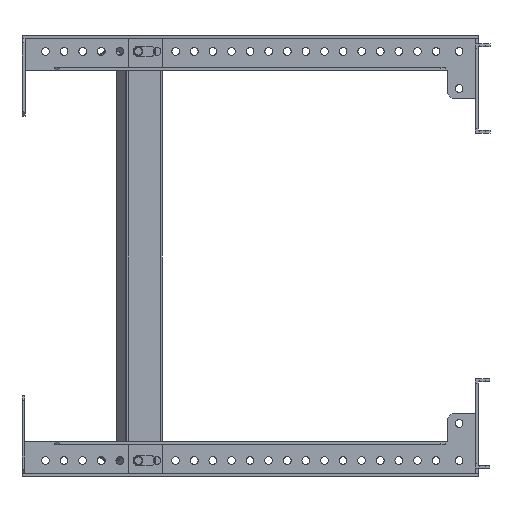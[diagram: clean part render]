
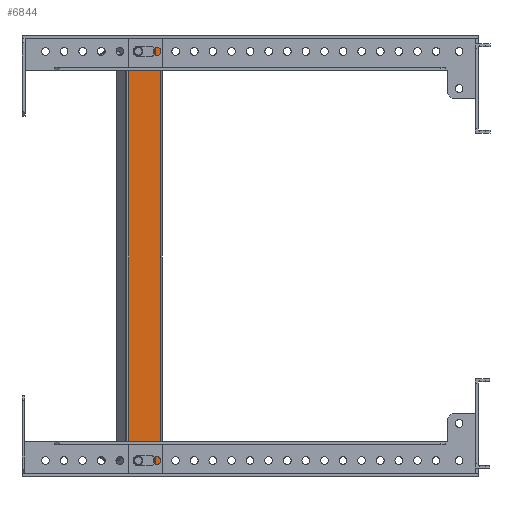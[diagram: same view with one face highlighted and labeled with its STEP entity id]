
A CAD part, front view. The second image highlights one B-rep face of the part: STEP entity #6844.
In plain terms, the highlighted planar face has unit normal (0, -1, 0).
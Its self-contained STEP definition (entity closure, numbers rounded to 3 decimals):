
#172 = CARTESIAN_POINT ( 'NONE',  ( 1112.302, -254., 191. ) ) ;
#176 = CARTESIAN_POINT ( 'NONE',  ( 1120.302, -254., 187.5 ) ) ;
#310 = LINE ( 'NONE', #172, #16246 ) ;
#333 = EDGE_CURVE ( 'NONE', #22848, #25020, #3269, .T. ) ;
#391 = ORIENTED_EDGE ( 'NONE', *, *, #6058, .F. ) ;
#1013 = VECTOR ( 'NONE', #26041, 1000. ) ;
#1368 = VERTEX_POINT ( 'NONE', #2504 ) ;
#1482 = LINE ( 'NONE', #19850, #1013 ) ;
#1777 = DIRECTION ( 'NONE',  ( 0., 0., 1. ) ) ;
#1845 = AXIS2_PLACEMENT_3D ( 'NONE', #16455, #18179, #16320 ) ;
#2427 = DIRECTION ( 'NONE',  ( 0., 1., 0. ) ) ;
#2497 = CARTESIAN_POINT ( 'NONE',  ( 1120.302, -254., 191. ) ) ;
#2504 = CARTESIAN_POINT ( 'NONE',  ( 1120.302, -254., 184. ) ) ;
#2693 = EDGE_CURVE ( 'NONE', #20092, #17296, #10010, .T. ) ;
#2729 = ORIENTED_EDGE ( 'NONE', *, *, #25532, .T. ) ;
#2745 = AXIS2_PLACEMENT_3D ( 'NONE', #24457, #12433, #8463 ) ;
#2863 = VECTOR ( 'NONE', #22231, 1000. ) ;
#3045 = LINE ( 'NONE', #22748, #4129 ) ;
#3119 = CIRCLE ( 'NONE', #8596, 3.5 ) ;
#3214 = EDGE_CURVE ( 'NONE', #24586, #7577, #19644, .T. ) ;
#3269 = CIRCLE ( 'NONE', #16782, 3.5 ) ;
#3352 = CARTESIAN_POINT ( 'NONE',  ( 1112.302, -254., 191. ) ) ;
#3448 = DIRECTION ( 'NONE',  ( -1., 0., 0. ) ) ;
#3543 = EDGE_LOOP ( 'NONE', ( #23884, #19864, #11367, #11747, #17469 ) ) ;
#3993 = CIRCLE ( 'NONE', #20861, 3.5 ) ;
#4129 = VECTOR ( 'NONE', #19057, 1000. ) ;
#4611 = VERTEX_POINT ( 'NONE', #10105 ) ;
#5322 = VERTEX_POINT ( 'NONE', #23980 ) ;
#5437 = CARTESIAN_POINT ( 'NONE',  ( 1112.302, -254., -91. ) ) ;
#5665 = VERTEX_POINT ( 'NONE', #3352 ) ;
#5785 = AXIS2_PLACEMENT_3D ( 'NONE', #9384, #23785, #3448 ) ;
#5857 = EDGE_CURVE ( 'NONE', #10269, #5322, #3045, .T. ) ;
#6058 = EDGE_CURVE ( 'NONE', #10269, #24586, #18364, .T. ) ;
#6102 = FACE_OUTER_BOUND ( 'NONE', #14247, .T. ) ;
#6251 = VECTOR ( 'NONE', #10744, 1000. ) ;
#6309 = VERTEX_POINT ( 'NONE', #6986 ) ;
#6844 = ADVANCED_FACE ( 'NONE', ( #6102, #22474, #12296 ), #20120, .F. ) ;
#6986 = CARTESIAN_POINT ( 'NONE',  ( 1112.302, -254., -84. ) ) ;
#7290 = EDGE_CURVE ( 'NONE', #6309, #22848, #15862, .T. ) ;
#7325 = LINE ( 'NONE', #15390, #21830 ) ;
#7503 = ORIENTED_EDGE ( 'NONE', *, *, #3214, .F. ) ;
#7577 = VERTEX_POINT ( 'NONE', #25463 ) ;
#8187 = ORIENTED_EDGE ( 'NONE', *, *, #10347, .F. ) ;
#8230 = CARTESIAN_POINT ( 'NONE',  ( 1112.302, -254., -87.5 ) ) ;
#8232 = DIRECTION ( 'NONE',  ( -1., 0., 0. ) ) ;
#8463 = DIRECTION ( 'NONE',  ( 1., 0., 0. ) ) ;
#8596 = AXIS2_PLACEMENT_3D ( 'NONE', #176, #2427, #8232 ) ;
#9384 = CARTESIAN_POINT ( 'NONE',  ( 1112.302, -254., 187.5 ) ) ;
#9826 = CARTESIAN_POINT ( 'NONE',  ( 1108.802, -254., 187.5 ) ) ;
#9861 = CIRCLE ( 'NONE', #1845, 3.5 ) ;
#10010 = CIRCLE ( 'NONE', #5785, 3.5 ) ;
#10105 = CARTESIAN_POINT ( 'NONE',  ( 1120.302, -254., -91. ) ) ;
#10269 = VERTEX_POINT ( 'NONE', #23815 ) ;
#10298 = VECTOR ( 'NONE', #25876, 1000. ) ;
#10347 = EDGE_CURVE ( 'NONE', #7577, #5322, #16152, .T. ) ;
#10744 = DIRECTION ( 'NONE',  ( -1., 0., 0. ) ) ;
#10881 = ORIENTED_EDGE ( 'NONE', *, *, #5857, .T. ) ;
#11366 = ORIENTED_EDGE ( 'NONE', *, *, #24215, .T. ) ;
#11367 = ORIENTED_EDGE ( 'NONE', *, *, #7290, .F. ) ;
#11550 = EDGE_CURVE ( 'NONE', #22491, #6309, #7325, .T. ) ;
#11687 = DIRECTION ( 'NONE',  ( -1., 0., 0. ) ) ;
#11724 = DIRECTION ( 'NONE',  ( -1., 0., 0. ) ) ;
#11747 = ORIENTED_EDGE ( 'NONE', *, *, #11550, .F. ) ;
#11911 = CARTESIAN_POINT ( 'NONE',  ( 1105.802, -254., 197.5 ) ) ;
#12296 = FACE_BOUND ( 'NONE', #3543, .T. ) ;
#12433 = DIRECTION ( 'NONE',  ( 0., 1., 0. ) ) ;
#12656 = ORIENTED_EDGE ( 'NONE', *, *, #18399, .T. ) ;
#12856 = CARTESIAN_POINT ( 'NONE',  ( 1112.302, -254., 184. ) ) ;
#12976 = VECTOR ( 'NONE', #1777, 1000. ) ;
#13727 = CARTESIAN_POINT ( 'NONE',  ( 1112.302, -254., 184. ) ) ;
#13863 = ORIENTED_EDGE ( 'NONE', *, *, #15174, .T. ) ;
#13883 = CARTESIAN_POINT ( 'NONE',  ( 1112.302, -254., -87.5 ) ) ;
#14247 = EDGE_LOOP ( 'NONE', ( #8187, #7503, #391, #10881 ) ) ;
#14274 = DIRECTION ( 'NONE',  ( -1., 0., 0. ) ) ;
#14329 = LINE ( 'NONE', #12856, #6251 ) ;
#14360 = CARTESIAN_POINT ( 'NONE',  ( 1108.802, -254., -87.5 ) ) ;
#15174 = EDGE_CURVE ( 'NONE', #1368, #20092, #14329, .T. ) ;
#15390 = CARTESIAN_POINT ( 'NONE',  ( 1112.302, -254., -84. ) ) ;
#15862 = CIRCLE ( 'NONE', #23032, 3.5 ) ;
#16152 = LINE ( 'NONE', #11911, #2863 ) ;
#16245 = CARTESIAN_POINT ( 'NONE',  ( 1150.146, -254., -97.5 ) ) ;
#16246 = VECTOR ( 'NONE', #20531, 1000. ) ;
#16268 = CARTESIAN_POINT ( 'NONE',  ( 1105.802, -254., -97.5 ) ) ;
#16320 = DIRECTION ( 'NONE',  ( -1., 0., 0. ) ) ;
#16455 = CARTESIAN_POINT ( 'NONE',  ( 1112.302, -254., 187.5 ) ) ;
#16782 = AXIS2_PLACEMENT_3D ( 'NONE', #8230, #17895, #11687 ) ;
#17296 = VERTEX_POINT ( 'NONE', #9826 ) ;
#17469 = ORIENTED_EDGE ( 'NONE', *, *, #21661, .F. ) ;
#17691 = CARTESIAN_POINT ( 'NONE',  ( 1120.302, -254., -87.5 ) ) ;
#17895 = DIRECTION ( 'NONE',  ( 0., -1., 0. ) ) ;
#18179 = DIRECTION ( 'NONE',  ( 0., 1., 0. ) ) ;
#18364 = LINE ( 'NONE', #16245, #10298 ) ;
#18367 = DIRECTION ( 'NONE',  ( 0., -1., 0. ) ) ;
#18399 = EDGE_CURVE ( 'NONE', #17296, #5665, #9861, .T. ) ;
#19057 = DIRECTION ( 'NONE',  ( 0., 0., 1. ) ) ;
#19644 = LINE ( 'NONE', #21887, #12976 ) ;
#19850 = CARTESIAN_POINT ( 'NONE',  ( 1112.302, -254., -91. ) ) ;
#19864 = ORIENTED_EDGE ( 'NONE', *, *, #333, .F. ) ;
#19909 = DIRECTION ( 'NONE',  ( 0., -1., 0. ) ) ;
#20092 = VERTEX_POINT ( 'NONE', #13727 ) ;
#20120 = PLANE ( 'NONE',  #2745 ) ;
#20325 = ORIENTED_EDGE ( 'NONE', *, *, #2693, .T. ) ;
#20531 = DIRECTION ( 'NONE',  ( 1., 0., 0. ) ) ;
#20861 = AXIS2_PLACEMENT_3D ( 'NONE', #17691, #19909, #11724 ) ;
#21414 = VERTEX_POINT ( 'NONE', #2497 ) ;
#21661 = EDGE_CURVE ( 'NONE', #4611, #22491, #3993, .T. ) ;
#21830 = VECTOR ( 'NONE', #23437, 1000. ) ;
#21887 = CARTESIAN_POINT ( 'NONE',  ( 1105.802, -254., -97.5 ) ) ;
#22231 = DIRECTION ( 'NONE',  ( 1., 0., 0. ) ) ;
#22311 = EDGE_LOOP ( 'NONE', ( #20325, #12656, #11366, #2729, #13863 ) ) ;
#22474 = FACE_BOUND ( 'NONE', #22311, .T. ) ;
#22491 = VERTEX_POINT ( 'NONE', #24828 ) ;
#22748 = CARTESIAN_POINT ( 'NONE',  ( 1128.304, -254., -100.859 ) ) ;
#22848 = VERTEX_POINT ( 'NONE', #14360 ) ;
#23032 = AXIS2_PLACEMENT_3D ( 'NONE', #13883, #18367, #14274 ) ;
#23437 = DIRECTION ( 'NONE',  ( -1., 0., 0. ) ) ;
#23785 = DIRECTION ( 'NONE',  ( 0., 1., 0. ) ) ;
#23815 = CARTESIAN_POINT ( 'NONE',  ( 1128.304, -254., -97.5 ) ) ;
#23884 = ORIENTED_EDGE ( 'NONE', *, *, #25711, .F. ) ;
#23980 = CARTESIAN_POINT ( 'NONE',  ( 1128.304, -254., 197.5 ) ) ;
#24215 = EDGE_CURVE ( 'NONE', #5665, #21414, #310, .T. ) ;
#24457 = CARTESIAN_POINT ( 'NONE',  ( 1150.77, -254., 50. ) ) ;
#24586 = VERTEX_POINT ( 'NONE', #16268 ) ;
#24828 = CARTESIAN_POINT ( 'NONE',  ( 1120.302, -254., -84. ) ) ;
#25020 = VERTEX_POINT ( 'NONE', #5437 ) ;
#25463 = CARTESIAN_POINT ( 'NONE',  ( 1105.802, -254., 197.5 ) ) ;
#25532 = EDGE_CURVE ( 'NONE', #21414, #1368, #3119, .T. ) ;
#25711 = EDGE_CURVE ( 'NONE', #25020, #4611, #1482, .T. ) ;
#25876 = DIRECTION ( 'NONE',  ( -1., 0., 0. ) ) ;
#26041 = DIRECTION ( 'NONE',  ( 1., 0., 0. ) ) ;
